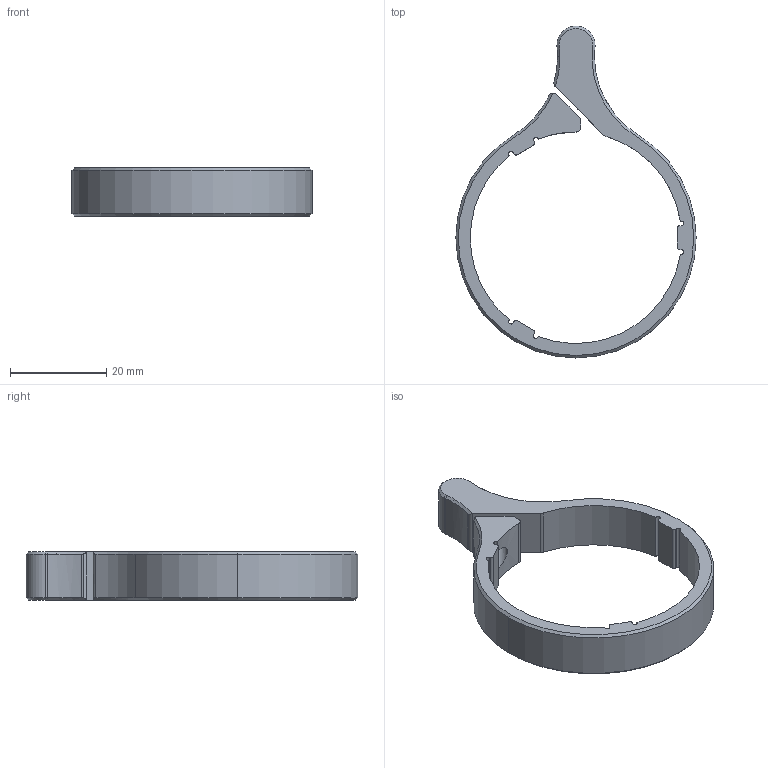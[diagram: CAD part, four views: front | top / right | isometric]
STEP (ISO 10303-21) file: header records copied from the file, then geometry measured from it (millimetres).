
FILE_DESCRIPTION (( 'STEP AP214' ), '1' );
FILE_NAME ('Nikon M Series 1-4x.STEP', '2020-01-07T22:56:42', ( '' ), ( '' ), 'SwSTEP 2.0', 'SolidWorks 2017', '' );
FILE_SCHEMA (( 'AUTOMOTIVE_DESIGN' ));
Length unit declared in the file: inch
Products named in the file (1): Nikon M Series 1-4x
Bounding box: 49.99 x 69.04 x 10 mm (x, y, z)
Volume: 5898.5 mm3; surface area: 4845.2 mm2
Topology: 1 solids, 1 shells, 82 faces, 220 edges, 141 vertices
Faces by surface type: cylinder 45, cone 20, plane 17
Entity records: 2761 total; most frequent: CARTESIAN_POINT 586, DIRECTION 481, ORIENTED_EDGE 440, EDGE_CURVE 220, AXIS2_PLACEMENT_3D 190, VERTEX_POINT 141, CIRCLE 107, LINE 101
